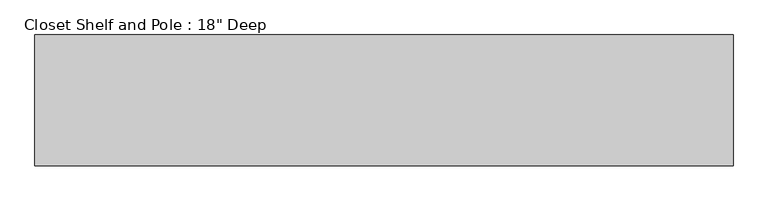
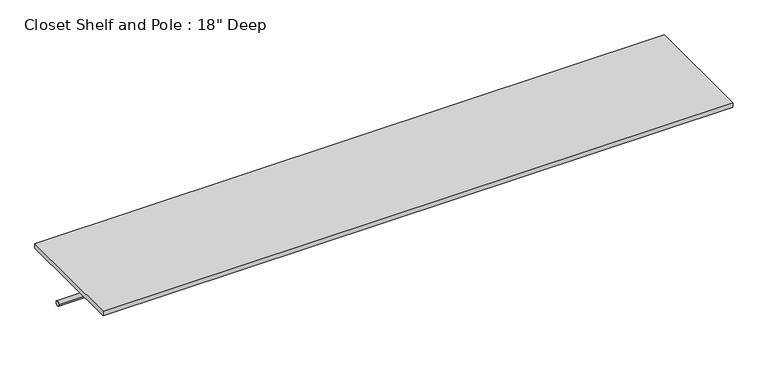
"""IFC4 building model written with IfcOpenShell, lengths in millimetres: proxy geometry."""

import ifcopenshell
import ifcopenshell.guid

model = None  # the IFC model being written
_history = None  # IfcOwnerHistory: only IFC2X3 demands one
_inside = {}  # id of a spatial element -> (the spatial element, [elements in it])
_under = {}  # id of a project, library or spatial element -> (it, [spatial elements below it])
_declared = {}  # id of a project -> (the project, [libraries it declares])
_typed = {}  # id of a type object -> (the type object, [elements of that type])
_made_of = {}  # id of a material, layer set ... -> (it, [elements and type objects made of it])


def new_model(schema):
    """Start an empty IFC model of exactly this schema.

    Asked for "IFC4X3", IfcOpenShell would pick the latest addendum, in which some entities
    have other attributes; the version numbers below select the first issue.
    IFC2X3 requires an IfcOwnerHistory on every rooted entity: one is made here for all.
    """
    global model, _history
    if schema == "IFC4X3":
        model = ifcopenshell.file(schema_version=(4, 3, 0, 0))
    else:
        model = ifcopenshell.file(schema=schema)
    _inside.clear()
    _under.clear()
    _declared.clear()
    _typed.clear()
    _made_of.clear()
    _history = None
    if model.schema == "IFC2X3":
        org = make("IfcOrganization", Name="unknown")
        user = make(
            "IfcPersonAndOrganization",
            ThePerson=make("IfcPerson", FamilyName="unknown"),
            TheOrganization=org,
        )
        app = make(
            "IfcApplication",
            ApplicationDeveloper=org,
            Version="unknown",
            ApplicationFullName="unknown",
            ApplicationIdentifier="unknown",
        )
        _history = make(
            "IfcOwnerHistory",
            OwningUser=user,
            OwningApplication=app,
            ChangeAction="ADDED",
            CreationDate=0,
        )
    return model


def make(cls, **values):
    """One entity of the class cls with the attributes given. An attribute that is None is left unset."""
    return model.create_entity(
        cls, **{name: value for name, value in values.items() if value is not None}
    )


def rooted(cls, **values):
    """An entity with a GlobalId (a new one), such as an element, a storey or a relation."""
    return make(cls, GlobalId=ifcopenshell.guid.new(), OwnerHistory=_history, **values)


def si_unit(unit_type, name, prefix=None):
    """IfcSIUnit, for example si_unit("LENGTHUNIT", "METRE", prefix="MILLI")."""
    return make("IfcSIUnit", UnitType=unit_type, Prefix=prefix, Name=name)


def assignment(units):
    """IfcUnitAssignment: the units of a project."""
    return None if units is None else make("IfcUnitAssignment", Units=units)


def point(xyz):
    """IfcCartesianPoint."""
    return None if xyz is None else make("IfcCartesianPoint", Coordinates=xyz)


def direction(xyz):
    """IfcDirection."""
    return None if xyz is None else make("IfcDirection", DirectionRatios=xyz)


def frame(location, z_axis=None, x_axis=None):
    """IfcAxis2Placement3D, a coordinate frame: its origin and axes. An axis left out is left unset."""
    return make(
        "IfcAxis2Placement3D",
        Location=point(location),
        Axis=direction(z_axis),
        RefDirection=direction(x_axis),
    )


def frame_2d(location, x_axis=None):
    """IfcAxis2Placement2D, a coordinate frame in the plane: its origin and x axis."""
    return make(
        "IfcAxis2Placement2D", Location=point(location), RefDirection=direction(x_axis)
    )


def origin():
    """The frame at (0, 0, 0) with its axes left unset."""
    return frame((0.0, 0.0, 0.0))


def place(relative_to, where):
    """IfcLocalPlacement: puts the frame where relative to a parent placement (None: the world)."""
    return make(
        "IfcLocalPlacement", PlacementRelTo=relative_to, RelativePlacement=where
    )


def context(
    kind, dimensions, precision=None, world=None, true_north=None, identifier=None
):
    """IfcGeometricRepresentationContext, for example the 3D "Model" context."""
    return make(
        "IfcGeometricRepresentationContext",
        ContextIdentifier=identifier,
        ContextType=kind,
        CoordinateSpaceDimension=dimensions,
        Precision=precision,
        WorldCoordinateSystem=world,
        TrueNorth=true_north,
    )


def project(units=None, contexts=None):
    """IfcProject with its units and contexts."""
    return rooted(
        "IfcProject",
        Name="project",
        RepresentationContexts=contexts,
        UnitsInContext=assignment(units),
    )


def spatial(cls, under=None, at=None, **own):
    """A site, building, storey or space (cls), placed at a placement, below another one or the project."""
    s = rooted(cls, ObjectPlacement=at, **own)
    if under is not None:
        _under.setdefault(under.id(), (under, []))[1].append(s)
    return s


def polyline(points):
    """IfcPolyline through the points."""
    return make("IfcPolyline", Points=[point(p) for p in points])


def circle_curve(where, radius):
    """IfcCircle in the frame where."""
    return make("IfcCircle", Position=where, Radius=radius)


def trimmed(basis, trim1, trim2, sense, master):
    """IfcTrimmedCurve: the piece of a basis curve between two trims."""
    return make(
        "IfcTrimmedCurve",
        BasisCurve=basis,
        Trim1=trim1,
        Trim2=trim2,
        SenseAgreement=sense,
        MasterRepresentation=master,
    )


def segment(curve, same_sense, transition):
    """IfcCompositeCurveSegment."""
    return make(
        "IfcCompositeCurveSegment",
        Transition=transition,
        SameSense=same_sense,
        ParentCurve=curve,
    )


def composite_curve(segments, self_intersect=None):
    """IfcCompositeCurve: segments joined end to end."""
    return make("IfcCompositeCurve", Segments=segments, SelfIntersect=self_intersect)


def outline(outer, holes=None, kind="AREA"):
    """IfcArbitraryClosedProfileDef: a profile drawn as a closed curve; with holes, ...WithVoids."""
    if holes is None:
        return make("IfcArbitraryClosedProfileDef", ProfileType=kind, OuterCurve=outer)
    return make(
        "IfcArbitraryProfileDefWithVoids",
        ProfileType=kind,
        OuterCurve=outer,
        InnerCurves=holes,
    )


def extrude(swept, where, along, depth):
    """IfcExtrudedAreaSolid: the profile swept, set in the frame where, extruded along a direction by depth."""
    return make(
        "IfcExtrudedAreaSolid",
        SweptArea=swept,
        Position=where,
        ExtrudedDirection=direction(along),
        Depth=depth,
    )


def shape(context_of_items, identifier, shape_type, items):
    """IfcShapeRepresentation: the items that make up one representation, for example the "Body"."""
    return make(
        "IfcShapeRepresentation",
        ContextOfItems=context_of_items,
        RepresentationIdentifier=identifier,
        RepresentationType=shape_type,
        Items=items,
    )


def source(mapping_origin, context_of_items, identifier, shape_type, items):
    """IfcRepresentationMap: a shape defined once, which mapped items show again and again."""
    return make(
        "IfcRepresentationMap",
        MappingOrigin=mapping_origin,
        MappedRepresentation=shape(context_of_items, identifier, shape_type, items),
    )


def transform(
    local_origin,
    x_axis=None,
    y_axis=None,
    z_axis=None,
    scale=None,
    scale2=None,
    scale3=None,
    uniform=True,
):
    """IfcCartesianTransformationOperator3D, or its non-uniform kind. x_axis, y_axis, z_axis: its Axis1, 2, 3."""
    if uniform:
        return make(
            "IfcCartesianTransformationOperator3D",
            Axis1=direction(x_axis),
            Axis2=direction(y_axis),
            LocalOrigin=point(local_origin),
            Scale=scale,
            Axis3=direction(z_axis),
        )
    return make(
        "IfcCartesianTransformationOperator3DnonUniform",
        Axis1=direction(x_axis),
        Axis2=direction(y_axis),
        LocalOrigin=point(local_origin),
        Scale=scale,
        Axis3=direction(z_axis),
        Scale2=scale2,
        Scale3=scale3,
    )


def mapped(mapping_source, mapping_target):
    """IfcMappedItem: shows the shape of a source again, moved by a transform."""
    return make(
        "IfcMappedItem", MappingSource=mapping_source, MappingTarget=mapping_target
    )


def made_of(thing, what):
    """Note that an element or type object is made of a material, layer set ...; save() writes the relation."""
    if what is not None:
        _made_of.setdefault(what.id(), (what, []))[1].append(thing)
    return thing


def element(
    cls,
    number,
    at=None,
    inside=None,
    cuts=None,
    type_object=None,
    material=None,
    context=None,
    identifier="Body",
    shape_type=None,
    held_by="IfcProductDefinitionShape",
    body=None,
    shapes=None,
    **own,
):
    """One element of the class cls, such as IfcWall. Its Tag is "e" and its number.

    at: its placement. inside: the storey or other place that contains it. cuts: it is an
    opening in that element (IfcRelVoidsElement). A single representation is given by context,
    identifier, shape_type and body (its items); several are given by shapes. held_by: the class
    of the entity that holds the representations. save() writes the other relations.
    """
    e = rooted(cls, Tag="e%d" % number, ObjectPlacement=at, **own)
    if body is not None:
        shapes = [shape(context, identifier, shape_type, body)]
    if shapes is not None:
        e.Representation = make(held_by, Representations=shapes)
    if inside is not None:
        _inside.setdefault(inside.id(), (inside, []))[1].append(e)
    if cuts is not None:
        rooted(
            "IfcRelVoidsElement", RelatingBuildingElement=cuts, RelatedOpeningElement=e
        )
    if type_object is not None:
        _typed.setdefault(type_object.id(), (type_object, []))[1].append(e)
    return made_of(e, material)


def aggregate(whole, parts):
    """IfcRelAggregates: a whole, such as a stair, and the parts it consists of."""
    return rooted("IfcRelAggregates", RelatingObject=whole, RelatedObjects=parts)


def save(model, path):
    """Write the relations noted so far, then the file.

    IfcRelAggregates (storeys below a building ...), IfcRelContainedInSpatialStructure (elements
    in a storey), IfcRelDefinesByType, IfcRelAssociatesMaterial and IfcRelDeclares: one each for
    every whole, place, type object, material and project.
    """
    for whole, parts in _under.values():
        aggregate(whole, parts)
    for where, things in _inside.values():
        rooted(
            "IfcRelContainedInSpatialStructure",
            RelatedElements=things,
            RelatingStructure=where,
        )
    for kind, things in _typed.values():
        rooted("IfcRelDefinesByType", RelatedObjects=things, RelatingType=kind)
    for what, things in _made_of.values():
        rooted("IfcRelAssociatesMaterial", RelatedObjects=things, RelatingMaterial=what)
    for by, libraries in _declared.values():
        rooted("IfcRelDeclares", RelatingContext=by, RelatedDefinitions=libraries)
    model.write(path)


def proxy_4d1dcef2(model_context):
    return source(origin(), model_context, "Body", "SweptSolid", [
        extrude(outline(composite_curve([segment(trimmed(circle_curve(frame_2d((304.8, 1676.4)), 9.525), [point((314.325, 1676.4))], [point((295.275, 1676.4))], False, "CARTESIAN"), True, "CONTINUOUS"), segment(trimmed(circle_curve(frame_2d((304.8, 1676.4)), 9.525), [point((295.275, 1676.4))], [point((314.325, 1676.4))], False, "CARTESIAN"), True, "CONTINUOUS")], self_intersect=False)), frame((0.0, 0.0, 0.0), z_axis=(1.0, 0.0, 0.0), x_axis=(0.0, 1.0, 0.0)), (0.0, 0.0, 1.0), 2438.4),
        extrude(outline(polyline([(2438.4, 0.0), (0.0, 0.0), (0.0, 457.2), (2438.4, 457.2), (2438.4, 0.0)])), frame((0.0, 0.0, 1809.75), z_axis=(0.0, 0.0, 1.0), x_axis=(1.0, 0.0, 0.0)), (0.0, 0.0, 1.0), 19.05),
    ])


if __name__ == "__main__":
    model = new_model("IFC4")
    model_context = context("Model", 3, world=origin())
    ifc_project = project(units=[si_unit("LENGTHUNIT", "METRE", prefix="MILLI")], contexts=[model_context])
    site = spatial("IfcSite", under=ifc_project)
    building = spatial("IfcBuilding", under=site)
    placement = place(None, origin())
    proxy_shape = proxy_4d1dcef2(model_context)
    element("IfcBuildingElementProxy", 1, Name="Closet Shelf and Pole : 18\" Deep", ObjectType="Closet Shelf and Pole : 18\" Deep", at=placement, inside=building, context=model_context, shape_type="MappedRepresentation", body=[
        mapped(proxy_shape, transform((0.0, 0.0, 0.0), x_axis=(1.0, 0.0, 0.0), y_axis=(0.0, 1.0, 0.0), z_axis=(0.0, 0.0, 1.0))),
    ])
    save(model, "model.ifc")
